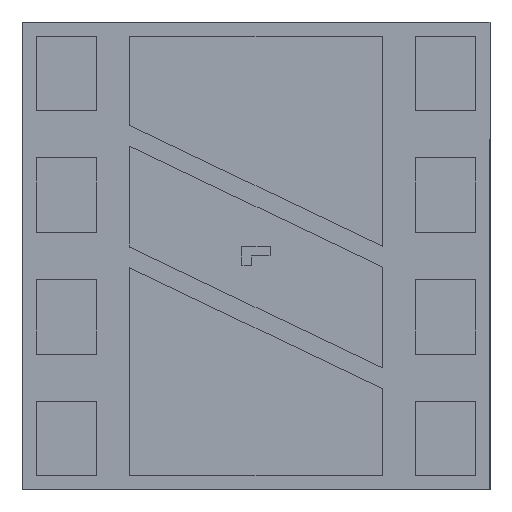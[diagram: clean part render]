
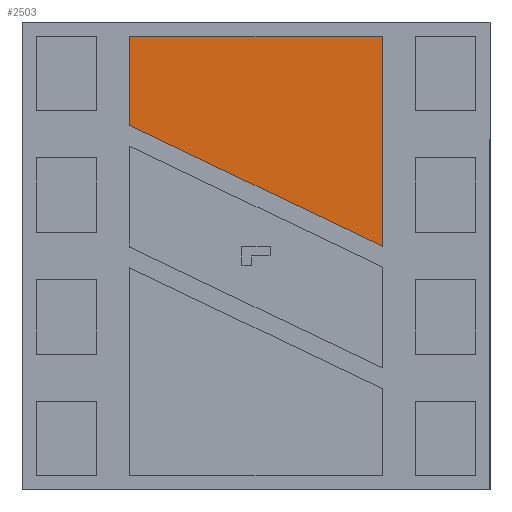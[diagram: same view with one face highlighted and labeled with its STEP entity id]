
A CAD part, front view. The second image highlights one B-rep face of the part: STEP entity #2503.
In plain terms, the highlighted planar face has unit normal (0, -1, 0).
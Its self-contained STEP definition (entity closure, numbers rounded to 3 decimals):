
#75 = VECTOR ( 'NONE', #2473, 1000. ) ;
#88 = EDGE_CURVE ( 'NONE', #749, #1894, #1767, .T. ) ;
#151 = CARTESIAN_POINT ( 'NONE',  ( 1.35, -0.05, 2.35 ) ) ;
#262 = LINE ( 'NONE', #1689, #75 ) ;
#324 = CARTESIAN_POINT ( 'NONE',  ( 1.35, -0.05, 0.104 ) ) ;
#392 = DIRECTION ( 'NONE',  ( 0., -1., 0. ) ) ;
#485 = CARTESIAN_POINT ( 'NONE',  ( -1.35, -0.05, 2.35 ) ) ;
#554 = ORIENTED_EDGE ( 'NONE', *, *, #1001, .T. ) ;
#582 = DIRECTION ( 'NONE',  ( -1., 0., 0. ) ) ;
#749 = VERTEX_POINT ( 'NONE', #1225 ) ;
#891 = VECTOR ( 'NONE', #2288, 1000. ) ;
#1001 = EDGE_CURVE ( 'NONE', #1554, #1448, #2318, .T. ) ;
#1083 = DIRECTION ( 'NONE',  ( 0., 0., -1. ) ) ;
#1225 = CARTESIAN_POINT ( 'NONE',  ( -1.35, -0.05, 2.35 ) ) ;
#1246 = FACE_OUTER_BOUND ( 'NONE', #2292, .T. ) ;
#1249 = CARTESIAN_POINT ( 'NONE',  ( -1.35, -0.05, 1.396 ) ) ;
#1251 = AXIS2_PLACEMENT_3D ( 'NONE', #1418, #392, #2578 ) ;
#1306 = VECTOR ( 'NONE', #1083, 1000. ) ;
#1402 = CARTESIAN_POINT ( 'NONE',  ( 1.35, -0.05, 2.35 ) ) ;
#1418 = CARTESIAN_POINT ( 'NONE',  ( 0., -0.05, 0. ) ) ;
#1448 = VERTEX_POINT ( 'NONE', #151 ) ;
#1476 = ORIENTED_EDGE ( 'NONE', *, *, #2194, .T. ) ;
#1533 = VECTOR ( 'NONE', #582, 1000. ) ;
#1554 = VERTEX_POINT ( 'NONE', #324 ) ;
#1689 = CARTESIAN_POINT ( 'NONE',  ( -1.35, -0.05, 1.396 ) ) ;
#1716 = CARTESIAN_POINT ( 'NONE',  ( 1.35, -0.05, 2.35 ) ) ;
#1767 = LINE ( 'NONE', #485, #1306 ) ;
#1894 = VERTEX_POINT ( 'NONE', #1249 ) ;
#2130 = EDGE_CURVE ( 'NONE', #1894, #1554, #262, .T. ) ;
#2194 = EDGE_CURVE ( 'NONE', #1448, #749, #2234, .T. ) ;
#2234 = LINE ( 'NONE', #1402, #1533 ) ;
#2278 = ORIENTED_EDGE ( 'NONE', *, *, #2130, .T. ) ;
#2288 = DIRECTION ( 'NONE',  ( 0., 0., 1. ) ) ;
#2292 = EDGE_LOOP ( 'NONE', ( #1476, #2526, #2278, #554 ) ) ;
#2318 = LINE ( 'NONE', #1716, #891 ) ;
#2387 = PLANE ( 'NONE',  #1251 ) ;
#2473 = DIRECTION ( 'NONE',  ( 0.902, 0., -0.432 ) ) ;
#2503 = ADVANCED_FACE ( 'NONE', ( #1246 ), #2387, .T. ) ;
#2526 = ORIENTED_EDGE ( 'NONE', *, *, #88, .T. ) ;
#2578 = DIRECTION ( 'NONE',  ( 0., 0., -1. ) ) ;
